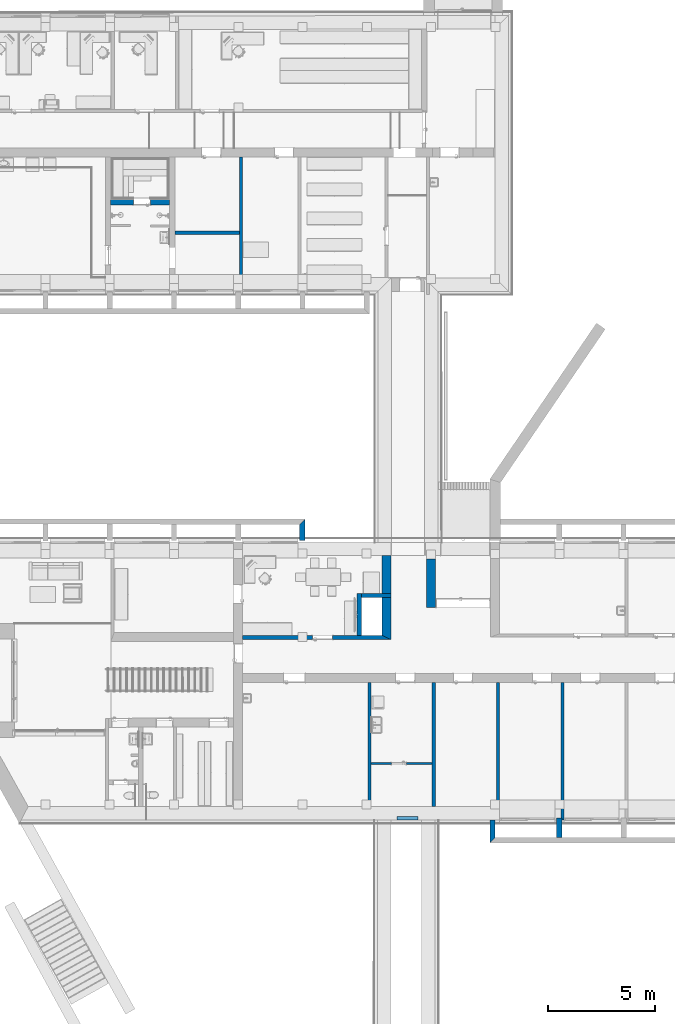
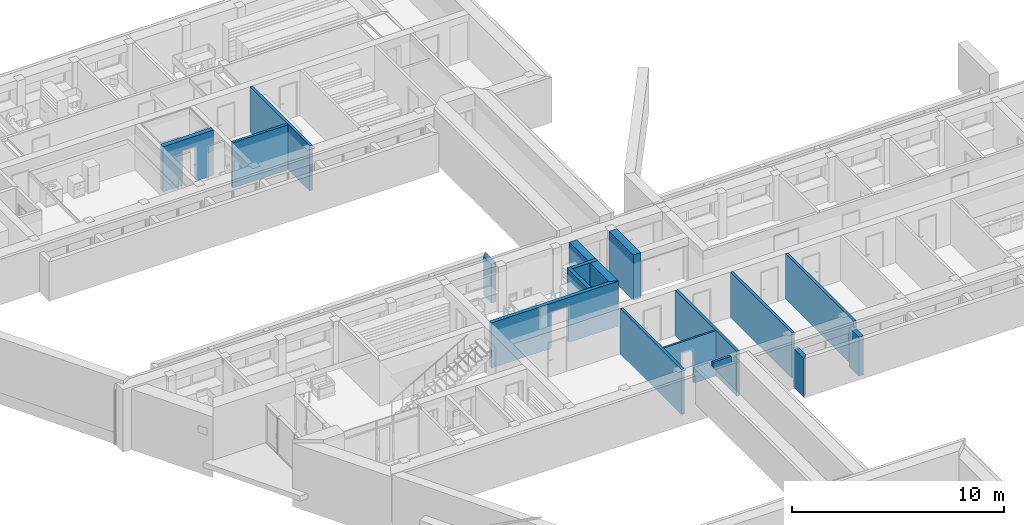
# One storey, part 5 of 127: 17 walls, 3 openings.
"""IFC2X3 building model written with IfcOpenShell, lengths in millimetres."""

from ifc_helpers import new_model, entity, si_unit, converted_unit, derived_unit, money_unit, direction, frame, origin_with_axes, origin_2d_with_axis, place, context, subcontext, project, spatial, polyline, rectangle, outline, extrude, material, layer, layer_set, layer_usage, type_object, element, save


model = new_model("IFC2X3")

# Units and contexts
model_context = context("Model", 3, precision=1e-05, world=origin_with_axes(), true_north=direction((0.0, 1.0)))
body_context = subcontext(model_context, "Body", "Model", "MODEL_VIEW")
ifc_project = project(units=[si_unit("LENGTHUNIT", "METRE", prefix="MILLI"), si_unit("AREAUNIT", "SQUARE_METRE"), si_unit("VOLUMEUNIT", "CUBIC_METRE"), converted_unit("PLANEANGLEUNIT", "DEGREE", entity("IfcPlaneAngleMeasure", 0.0174532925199), si_unit("PLANEANGLEUNIT", "RADIAN"), dimensions=[0, 0, 0, 0, 0, 0, 0]), si_unit("SOLIDANGLEUNIT", "STERADIAN"), money_unit("EUR"), converted_unit("TIMEUNIT", "Year", entity("IfcTimeMeasure", 31556926.0), si_unit("TIMEUNIT", "SECOND"), dimensions=[0, 0, 1, 0, 0, 0, 0]), si_unit("MASSUNIT", "GRAM", prefix="KILO"), si_unit("THERMODYNAMICTEMPERATUREUNIT", "DEGREE_CELSIUS"), si_unit("LUMINOUSINTENSITYUNIT", "LUMEN"), si_unit("ENERGYUNIT", "JOULE", prefix="MEGA"), derived_unit("THERMALCONDUCTANCEUNIT", [(si_unit("POWERUNIT", "WATT"), 1), (si_unit("LENGTHUNIT", "METRE"), -1), (si_unit("THERMODYNAMICTEMPERATUREUNIT", "KELVIN"), -1)]), derived_unit("SPECIFICHEATCAPACITYUNIT", [(si_unit("ENERGYUNIT", "JOULE"), 1), (si_unit("MASSUNIT", "GRAM", prefix="KILO"), -1), (si_unit("THERMODYNAMICTEMPERATUREUNIT", "KELVIN"), -1)]), derived_unit("MASSDENSITYUNIT", [(si_unit("MASSUNIT", "GRAM", prefix="KILO"), 1), (si_unit("VOLUMEUNIT", "CUBIC_METRE"), -1)])], contexts=[model_context])

# Site, building, storey
site_placement = place(None, origin_with_axes())
site = spatial("IfcSite", under=ifc_project, at=site_placement, Name="Site", CompositionType="ELEMENT")
building_placement = place(site_placement, origin_with_axes())
building = spatial("IfcBuilding", under=site, at=building_placement, Name="Building", CompositionType="ELEMENT")
storey_placement = place(building_placement, origin_with_axes())
storey = spatial("IfcBuildingStorey", under=building, at=storey_placement, Name="1 KORRUS", CompositionType="ELEMENT", Elevation=0.0)

# Walls
ifc_material_1 = material(Name="Kivi - Ol.Olev Konstruktsioon")
ifc_layer_1 = layer(ifc_material_1, 250.0, ventilated="UNKNOWN")
ifc_layer_set_1 = layer_set([ifc_layer_1], Name="Ol.olve tugimüür 250")
ifc_layer_usage_1 = layer_usage(ifc_layer_set_1, "AXIS2", "NEGATIVE", 125.0)
wall_type_1 = type_object("IfcWallType", Name="SW - 028", PredefinedType="NOTDEFINED")
wall_1_placement = place(storey_placement, frame((33944.3519151, 47309.2645435, 0.0), z_axis=(0.0, 0.0, 1.0), x_axis=(0.000248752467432, 0.999999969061, 0.0)))
element("IfcWallStandardCase", 1, at=wall_1_placement, inside=storey, type_object=wall_type_1, material=ifc_layer_usage_1, Name="Ol.olve tugimüür 250", context=body_context, shape_type="SweptSolid", body=[
    extrude(outline(polyline([(0.0, -125.0), (1008.91938444, -125.0), (758.91938444, 125.0), (0.0, 125.0), (0.0, -125.0)])), origin_with_axes(), (0.0, 0.0, 1.0), 2250.0),
])
ifc_material_2 = material(Name="Kivi -Ol.Olev Konstruktsioon")
ifc_layer_2 = layer(ifc_material_2, 150.0, ventilated="UNKNOWN")
ifc_layer_set_2 = layer_set([ifc_layer_2], Name="ol.olev ss 150")
ifc_layer_usage_2 = layer_usage(ifc_layer_set_2, "AXIS2", "POSITIVE", 0.0)
wall_type_2 = type_object("IfcWallType", Name="SW - 036", PredefinedType="NOTDEFINED")
wall_2_placement = place(storey_placement, frame((37004.3292711, 41101.6242698, 0.0), z_axis=(0.0, 0.0, 1.0), x_axis=(0.0, -1.0, 0.0)))
element("IfcWallStandardCase", 2, at=wall_2_placement, inside=storey, type_object=wall_type_2, material=ifc_layer_usage_2, Name="ol.olev ss 150", context=body_context, shape_type="SweptSolid", body=[
    extrude(outline(polyline([(420.0, 0.0), (6213.41957277, 0.0), (6213.40935875, 150.0), (420.0, 150.0), (420.0, 0.0)])), origin_with_axes(), (0.0, 0.0, 1.0), 2600.0),
])
ifc_layer_usage_3 = layer_usage(ifc_layer_set_2, "AXIS2", "POSITIVE", -150.0)
wall_3_placement = place(storey_placement, frame((31154.678365, 61612.6000839, 0.0), z_axis=(0.0, 0.0, 1.0), x_axis=(-1.0, 0.0, 0.0)))
element("IfcWallStandardCase", 3, at=wall_3_placement, inside=storey, type_object=wall_type_2, material=ifc_layer_usage_3, Name="ol.olev ss 150", context=body_context, shape_type="SweptSolid", body=[
    extrude(outline(polyline([(150.0, -150.0), (3169.95090643, -150.0), (3169.95090643, 0.0), (150.0, 0.0), (150.0, -150.0)])), origin_with_axes(), (0.0, 0.0, 1.0), 2600.0),
])
ifc_layer_usage_4 = layer_usage(ifc_layer_set_2, "AXIS2", "NEGATIVE", 0.0)
wall_4_placement = place(storey_placement, frame((31154.678365, 65636.3690561, 0.0), z_axis=(0.0, 0.0, 1.0), x_axis=(0.0, -1.0, 0.0)))
element("IfcWallStandardCase", 4, at=wall_4_placement, inside=storey, type_object=wall_type_2, material=ifc_layer_usage_4, Name="ol.olev ss 150", context=body_context, shape_type="SweptSolid", body=[
    extrude(outline(polyline([(420.0, -150.0), (6048.01766202, -150.0), (6048.01766202, 0.0), (420.0, 0.0), (420.0, -150.0)])), origin_with_axes(), (0.0, 0.0, 1.0), 2600.0),
])

# Wall, opening
ifc_layer_3 = layer(ifc_material_2, 250.0, ventilated="UNKNOWN")
ifc_layer_set_3 = layer_set([ifc_layer_3], Name="ol.olev ss 250")
ifc_layer_usage_5 = layer_usage(ifc_layer_set_3, "AXIS2", "POSITIVE", -250.0)
wall_5_placement = place(storey_placement, frame((27734.7274585, 62980.8824025, 0.0), z_axis=(0.0, 0.0, 1.0), x_axis=(-1.0, 0.0, 0.0)))
wall_5 = element("IfcWallStandardCase", 5, at=wall_5_placement, inside=storey, type_object=wall_type_2, material=ifc_layer_usage_5, Name="ol.olev ss 250", context=body_context, shape_type="SweptSolid", body=[
    extrude(outline(polyline([(0.0, -250.0), (2746.59080501, -250.0), (2746.59080501, 0.0), (0.0, 0.0), (0.0, -250.0)])), origin_with_axes(), (0.0, 0.0, 1.0), 2600.0),
])
opening_1_placement = place(wall_5_placement, frame((1286.98121109, 0.0, 0.0), z_axis=(0.0, 0.0, 1.0), x_axis=(1.0, 0.0, 0.0)))
element("IfcOpeningElement", 6, at=opening_1_placement, cuts=wall_5, Name="Sauna uks * Door 22", context=body_context, shape_type="SweptSolid", body=[
    extrude(rectangle(XDim=800.0, YDim=2000.0, at=origin_2d_with_axis()), frame((0.0, -250.0, 1000.0), z_axis=(0.0, 1.0, 0.0), x_axis=(1.0, 0.0, 0.0)), (0.0, 0.0, 1.0), 750.0),
    extrude(rectangle(XDim=874.0, YDim=2037.0, at=origin_2d_with_axis()), frame((0.0, -250.0, 1018.5), z_axis=(0.0, 1.0, 0.0), x_axis=(1.0, 0.0, 0.0)), (0.0, 0.0, -1.0), 250.0),
    extrude(rectangle(XDim=874.0, YDim=2037.0, at=origin_2d_with_axis()), frame((0.0, 0.0, 1018.5), z_axis=(0.0, -1.0, 0.0), x_axis=(1.0, 0.0, 0.0)), (0.0, 0.0, -1.0), 250.0),
])

# Walls
ifc_layer_4 = layer(ifc_material_2, 420.0, ventilated="UNKNOWN")
ifc_layer_set_4 = layer_set([ifc_layer_4], Name="ol.olev ss 420")
ifc_layer_usage_6 = layer_usage(ifc_layer_set_4, "AXIS2", "POSITIVE", 0.0)
wall_6_placement = place(storey_placement, frame((38073.7198051, 42682.4199075, 0.0), z_axis=(0.0, 0.0, 1.0), x_axis=(0.0, 1.0, 0.0)))
element("IfcWallStandardCase", 7, at=wall_6_placement, inside=storey, type_object=wall_type_2, material=ifc_layer_usage_6, Name="ol.olev ss 420", context=body_context, shape_type="SweptSolid", body=[
    extrude(outline(polyline([(0.0, 0.0), (3934.73680847, 0.0), (3934.8412845, 420.0), (200.0, 420.0), (0.0, 0.0)])), origin_with_axes(), (0.0, 0.0, 1.0), 2600.0),
])
ifc_layer_usage_7 = layer_usage(ifc_layer_set_2, "AXIS2", "POSITIVE", 0.0)
wall_7_placement = place(storey_placement, frame((46011.2752481, 41101.6242698, 0.0), z_axis=(0.0, 0.0, 1.0), x_axis=(-3.46841464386e-05, -0.999999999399, 0.0)))
element("IfcWallStandardCase", 8, at=wall_7_placement, inside=storey, type_object=wall_type_2, material=ifc_layer_usage_7, Name="ol.olev ss 150", context=body_context, shape_type="SweptSolid", body=[
    extrude(outline(polyline([(420.000000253, 0.0), (6842.69911443, 0.0), (6842.69911443, 150.0), (419.99479763, 150.0), (420.000000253, 0.0)])), origin_with_axes(), (0.0, 0.0, 1.0), 2600.0),
])
ifc_layer_usage_8 = layer_usage(ifc_layer_set_2, "AXIS2", "POSITIVE", 0.0)
wall_8_placement = place(storey_placement, frame((40002.9536348, 41101.6242698, 0.0), z_axis=(0.0, 0.0, 1.0), x_axis=(0.0, -1.0, 0.0)))
element("IfcWallStandardCase", 9, at=wall_8_placement, inside=storey, type_object=wall_type_2, material=ifc_layer_usage_8, Name="ol.olev ss 150", context=body_context, shape_type="SweptSolid", body=[
    extrude(outline(polyline([(420.0, 0.0), (6213.2153859, 0.0), (6213.20517187, 150.0), (420.0, 150.0), (420.0, 0.0)])), origin_with_axes(), (0.0, 0.0, 1.0), 2600.0),
])
ifc_layer_usage_9 = layer_usage(ifc_layer_set_2, "AXIS2", "POSITIVE", 0.0)
wall_9_placement = place(storey_placement, frame((43005.6728439, 41101.6242698, 0.0), z_axis=(0.0, 0.0, 1.0), x_axis=(0.0, -1.0, 0.0)))
element("IfcWallStandardCase", 10, at=wall_9_placement, inside=storey, type_object=wall_type_2, material=ifc_layer_usage_9, Name="ol.olev ss 150", context=body_context, shape_type="SweptSolid", body=[
    extrude(outline(polyline([(420.0, 0.0), (6213.01092019, 0.0), (6213.00070616, 150.0), (420.0, 150.0), (420.0, 0.0)])), origin_with_axes(), (0.0, 0.0, 1.0), 2600.0),
])
ifc_layer_usage_10 = layer_usage(ifc_layer_set_4, "AXIS2", "NEGATIVE", 0.0)
wall_10_placement = place(storey_placement, frame((39737.8209241, 44172.480897, 0.0), z_axis=(0.0, 0.0, 1.0), x_axis=(-0.00153152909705, 0.999998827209, 0.0)))
element("IfcWallStandardCase", 11, at=wall_10_placement, inside=storey, type_object=wall_type_2, material=ifc_layer_usage_10, Name="ol.olev ss 420", context=body_context, shape_type="SweptSolid", body=[
    extrude(outline(polyline([(0.0, -420.0), (2279.84766975, -420.0), (2279.84766975, 1.13686837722e-10), (0.0, 0.0), (0.0, -420.0)])), origin_with_axes(), (0.0, 0.0, 1.0), 2600.0),
])
ifc_layer_5 = layer(ifc_material_2, 200.0, ventilated="UNKNOWN")
ifc_layer_set_5 = layer_set([ifc_layer_5], Name="ol.olev ss 200")
ifc_layer_usage_11 = layer_usage(ifc_layer_set_5, "AXIS2", "POSITIVE", -200.0)
wall_type_3 = type_object("IfcWallType", Name="SW - 023", PredefinedType="NOTDEFINED")
wall_11_placement = place(storey_placement, frame((36502.2948109, 44838.6870986, 0.0), z_axis=(0.0, 0.0, 1.0), x_axis=(1.0, 0.0, 0.0)))
element("IfcWallStandardCase", 12, at=wall_11_placement, inside=storey, type_object=wall_type_3, material=ifc_layer_usage_11, Name="ol.olev ss 200", context=body_context, shape_type="SweptSolid", body=[
    extrude(outline(polyline([(199.994754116, -200.0), (1573.76911503, -200.0), (1573.76911503, 0.0), (199.994754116, 0.0), (199.994754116, -200.0)])), origin_with_axes(), (0.0, 0.0, 1.0), 2600.0),
])
ifc_layer_usage_12 = layer_usage(ifc_layer_set_5, "AXIS2", "POSITIVE", -200.0)
wall_12_placement = place(storey_placement, frame((36502.289565, 42682.4199075, 0.0), z_axis=(0.0, 0.0, 1.0), x_axis=(0.0, 1.0, 0.0)))
element("IfcWallStandardCase", 13, at=wall_12_placement, inside=storey, type_object=wall_type_3, material=ifc_layer_usage_12, Name="ol.olev ss 200", context=body_context, shape_type="SweptSolid", body=[
    extrude(outline(polyline([(200.0, -200.0), (2157.18016563, -200.0), (2157.18016563, 0.0), (200.0, 0.0), (200.0, -200.0)])), origin_with_axes(), (0.0, 0.0, 1.0), 2600.0),
])

# Wall, opening
ifc_layer_usage_13 = layer_usage(ifc_layer_set_5, "AXIS2", "POSITIVE", 0.0)
wall_13_placement = place(storey_placement, frame((30733.8006358, 42682.4199075, 0.0), z_axis=(0.0, 0.0, 1.0), x_axis=(1.0, 0.0, 0.0)))
wall_13 = element("IfcWallStandardCase", 14, at=wall_13_placement, inside=storey, type_object=wall_type_3, material=ifc_layer_usage_13, Name="ol.olev ss 200", context=body_context, shape_type="SweptSolid", body=[
    extrude(outline(polyline([(420.0, 0.0), (7339.91916926, 0.0), (6919.91916926, 200.0), (420.0, 200.0), (420.0, 0.0)])), origin_with_axes(), (0.0, 0.0, 1.0), 2600.0),
])
opening_2_placement = place(wall_13_placement, frame((4146.81137721, 0.0, 0.0), z_axis=(0.0, 0.0, 1.0), x_axis=(1.0, 0.0, 0.0)))
element("IfcOpeningElement", 15, at=opening_2_placement, cuts=wall_13, Name="Siseuks * Door 22", context=body_context, shape_type="SweptSolid", body=[
    extrude(rectangle(XDim=950.0, YDim=2100.0, at=origin_2d_with_axis()), frame((0.0, 200.0, 1050.0), z_axis=(0.0, 1.0, 0.0), x_axis=(1.0, 0.0, 0.0)), (0.0, 0.0, -1.0), 600.0),
    extrude(rectangle(XDim=1024.0, YDim=2137.0, at=origin_2d_with_axis()), frame((0.0, 200.0, 1068.5), z_axis=(0.0, 1.0, 0.0), x_axis=(1.0, 0.0, 0.0)), (0.0, 0.0, 1.0), 200.0),
    extrude(rectangle(XDim=1024.0, YDim=2137.0, at=origin_2d_with_axis()), frame((0.0, 0.0, 1068.5), z_axis=(0.0, -1.0, 0.0), x_axis=(1.0, 0.0, 0.0)), (0.0, 0.0, 1.0), 200.0),
])

# Walls
ifc_layer_usage_14 = layer_usage(ifc_layer_set_1, "AXIS2", "POSITIVE", -125.0)
wall_type_4 = type_object("IfcWallType", Name="SW - 033", PredefinedType="NOTDEFINED")
wall_14_placement = place(storey_placement, frame((45948.1146391, 34352.0646756, 0.0), z_axis=(0.0, 0.0, 1.0), x_axis=(6.80935169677e-05, -0.999999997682, 0.0)))
element("IfcWallStandardCase", 16, at=wall_14_placement, inside=storey, type_object=wall_type_4, material=ifc_layer_usage_14, Name="Ol.olve tugimüür 250", context=body_context, shape_type="SweptSolid", body=[
    extrude(outline(polyline([(0.0, -125.0), (913.446736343, -125.0), (913.463759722, 125.0), (9.09494701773e-10, 125.0), (0.0, -125.0)])), origin_with_axes(), (0.0, 0.0, 1.0), 2250.0),
])
ifc_layer_usage_15 = layer_usage(ifc_layer_set_1, "AXIS2", "POSITIVE", -250.0)
wall_15_placement = place(storey_placement, frame((42948.1209889, 34258.8137098, 0.0), z_axis=(0.0, 0.0, 1.0), x_axis=(6.8093516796e-05, -0.999999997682, 0.0)))
element("IfcWallStandardCase", 17, at=wall_15_placement, inside=storey, type_object=wall_type_4, material=ifc_layer_usage_15, Name="Ol.olve tugimüür 250", context=body_context, shape_type="SweptSolid", body=[
    extrude(outline(polyline([(0.0, -250.0), (1070.18725926, -250.0), (820.204282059, 1.13686837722e-10), (0.0, 0.0), (0.0, -250.0)])), origin_with_axes(), (0.0, 0.0, 1.0), 2250.0),
])
ifc_material_3 = material(Name="Kivi -  Uus Konstruktsioon")
ifc_layer_6 = layer(ifc_material_3, 150.0, ventilated="UNKNOWN")
ifc_layer_set_6 = layer_set([ifc_layer_6], Name="uus kinni ehitav sein 150")
ifc_layer_usage_16 = layer_usage(ifc_layer_set_6, "AXIS2", "POSITIVE", -150.0)
wall_type_5 = type_object("IfcWallType", Name="P-4", PredefinedType="NOTDEFINED")
wall_16_placement = place(storey_placement, frame((39352.8565813, 34258.3646151, 2545.0), z_axis=(0.0, 0.0, 1.0), x_axis=(-1.0, 0.0, 0.0)))
element("IfcWallStandardCase", 18, at=wall_16_placement, inside=storey, type_object=wall_type_5, material=ifc_layer_usage_16, Name="sahti sein", context=body_context, shape_type="SweptSolid", body=[
    extrude(outline(polyline([(0.0, -150.0), (1000.0, -150.0), (1000.0, 0.0), (0.0, 0.0), (0.0, -150.0)])), origin_with_axes(), (0.0, 0.0, 1.0), 375.0),
])

# Wall, opening
ifc_layer_7 = layer(ifc_material_2, 100.0, ventilated="UNKNOWN")
ifc_layer_set_7 = layer_set([ifc_layer_7], Name="ol.olev ss 100")
ifc_layer_usage_17 = layer_usage(ifc_layer_set_7, "AXIS2", "POSITIVE", 0.0)
wall_type_6 = type_object("IfcWallType", Name="SW - 040", PredefinedType="NOTDEFINED")
wall_17_placement = place(storey_placement, frame((37004.3292711, 36838.5610702, 0.0), z_axis=(0.0, 0.0, 1.0), x_axis=(0.999999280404, 0.00119966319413, 0.0)))
wall_17 = element("IfcWallStandardCase", 19, at=wall_17_placement, inside=storey, type_object=wall_type_6, material=ifc_layer_usage_17, Name="ol.olev ss 100", context=body_context, shape_type="SweptSolid", body=[
    extrude(outline(polyline([(150.000107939, 0.0), (2998.62652149, 0.0), (2998.74648789, 100.0), (150.120074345, 99.9999999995), (150.000107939, 0.0)])), origin_with_axes(), (0.0, 0.0, 1.0), 2600.0),
])
opening_3_placement = place(wall_17_placement, frame((1443.68667353, 0.0, 0.0), z_axis=(0.0, 0.0, 1.0), x_axis=(1.0, 0.0, 0.0)))
element("IfcOpeningElement", 20, at=opening_3_placement, cuts=wall_17, Name="Siseuks * Door 22", context=body_context, shape_type="SweptSolid", body=[
    extrude(rectangle(XDim=700.0, YDim=2000.0, at=origin_2d_with_axis()), frame((0.0, -100.0, 1000.0), z_axis=(0.0, -1.0, 0.0), x_axis=(-1.0, 0.0, 0.0)), (0.0, 0.0, -1.0), 300.000000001),
    extrude(rectangle(XDim=774.0, YDim=2037.0, at=origin_2d_with_axis()), frame((0.0, 0.0, 1018.5), z_axis=(0.0, -1.0, 0.0), x_axis=(-1.0, 0.0, 0.0)), (0.0, 0.0, 1.0), 100.0),
    extrude(rectangle(XDim=774.0, YDim=2037.0, at=origin_2d_with_axis()), frame((0.0, 99.9999999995, 1018.5), z_axis=(0.0, 1.0, 0.0), x_axis=(-1.0, 0.0, 0.0)), (0.0, 0.0, 1.0), 100.0),
])

save(model, "model.ifc")
